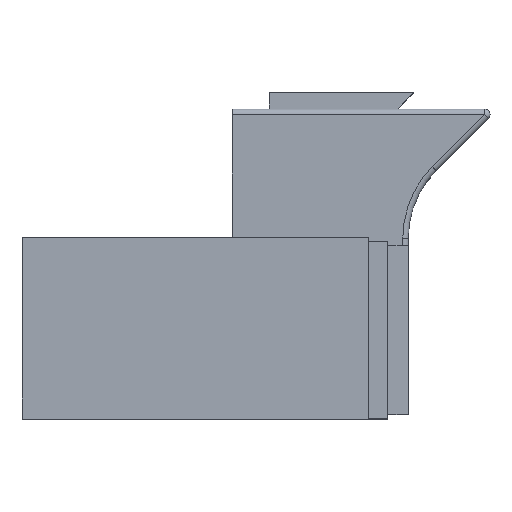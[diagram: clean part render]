
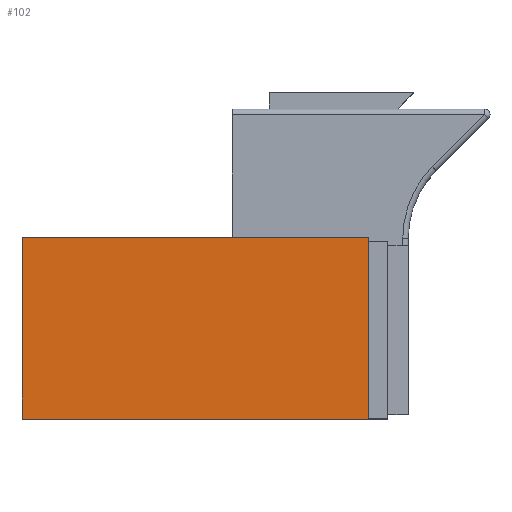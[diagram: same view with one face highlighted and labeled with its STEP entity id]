
A CAD part, top view. The second image highlights one B-rep face of the part: STEP entity #102.
In plain terms, the highlighted planar face has unit normal (0, 0, 1).
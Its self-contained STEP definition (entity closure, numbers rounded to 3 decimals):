
#102=ADVANCED_FACE('',(#492),#494,.T.);
#492=FACE_BOUND('',#493,.T.);
#493=EDGE_LOOP('',(#855,#856,#857,#858,#859));
#494=PLANE('',#495);
#495=AXIS2_PLACEMENT_3D('',#496,#497,#498);
#496=CARTESIAN_POINT('',(-2.05,-0.16,-4.73));
#497=DIRECTION('',(0.,0.,1.));
#498=DIRECTION('',(0.,1.,0.));
#855=ORIENTED_EDGE('',*,*,#1066,.T.);
#856=ORIENTED_EDGE('',*,*,#1069,.T.);
#857=ORIENTED_EDGE('',*,*,#1070,.T.);
#858=ORIENTED_EDGE('',*,*,#1071,.F.);
#859=ORIENTED_EDGE('',*,*,#1030,.F.);
#1030=EDGE_CURVE('',#1277,#1280,#1281,.T.);
#1066=EDGE_CURVE('',#1277,#1336,#1337,.T.);
#1069=EDGE_CURVE('',#1336,#1341,#1342,.T.);
#1070=EDGE_CURVE('',#1341,#1343,#1344,.T.);
#1071=EDGE_CURVE('',#1280,#1343,#1345,.T.);
#1277=VERTEX_POINT('',#1818);
#1280=VERTEX_POINT('',#1823);
#1281=LINE('',#1824,#1825);
#1336=VERTEX_POINT('',#1960);
#1337=LINE('',#1961,#1962);
#1341=VERTEX_POINT('',#1971);
#1342=LINE('',#1972,#1973);
#1343=VERTEX_POINT('',#1975);
#1344=LINE('',#1976,#1977);
#1345=LINE('',#1979,#1980);
#1818=CARTESIAN_POINT('',(-2.05,-0.16,-4.73));
#1823=CARTESIAN_POINT('',(-14.764,-0.16,-4.73));
#1824=CARTESIAN_POINT('',(-2.05,-0.16,-4.73));
#1825=VECTOR('',#1826,1.);
#1826=DIRECTION('',(-1.,0.,0.));
#1960=CARTESIAN_POINT('',(-2.05,6.34,-4.73));
#1961=CARTESIAN_POINT('',(-2.05,-0.16,-4.73));
#1962=VECTOR('',#1963,1.);
#1963=DIRECTION('',(0.,1.,0.));
#1971=CARTESIAN_POINT('',(-2.05,6.5,-4.73));
#1972=CARTESIAN_POINT('',(-2.05,6.34,-4.73));
#1973=VECTOR('',#1974,1.);
#1974=DIRECTION('',(0.,1.,0.));
#1975=CARTESIAN_POINT('',(-14.764,6.5,-4.73));
#1976=CARTESIAN_POINT('',(-2.05,6.5,-4.73));
#1977=VECTOR('',#1978,1.);
#1978=DIRECTION('',(-1.,0.,0.));
#1979=CARTESIAN_POINT('',(-14.764,-0.16,-4.73));
#1980=VECTOR('',#1981,1.);
#1981=DIRECTION('',(0.,1.,0.));
